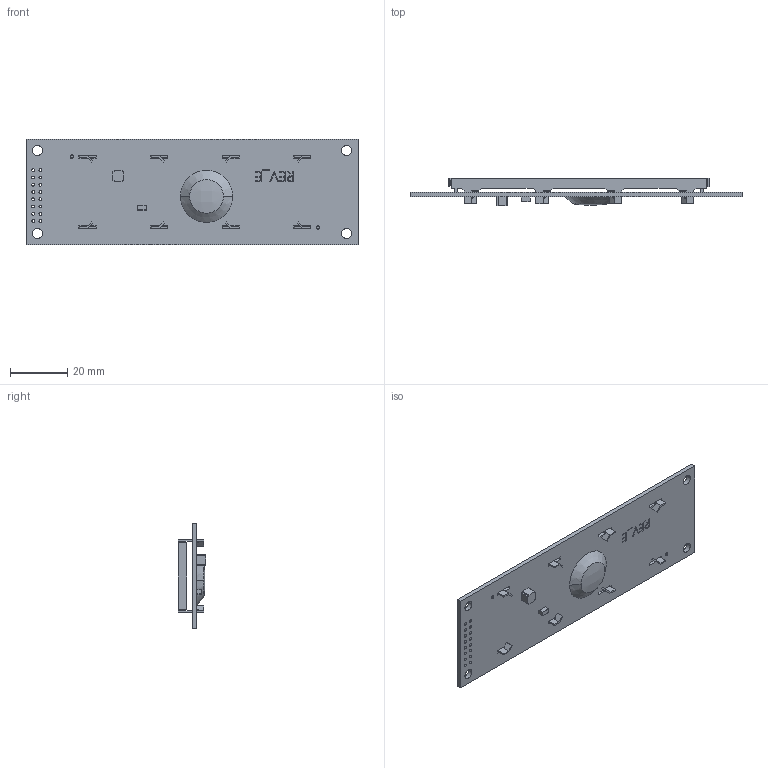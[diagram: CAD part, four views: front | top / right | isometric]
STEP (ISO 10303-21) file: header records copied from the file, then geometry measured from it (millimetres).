
FILE_DESCRIPTION (( 'STEP AP203' ), '1' );
FILE_NAME ('NHD-0220DZW.STEP', '2024-01-25T19:47:39', ( '' ), ( '' ), 'SwSTEP 2.0', 'SolidWorks 2019', '' );
FILE_SCHEMA (( 'CONFIG_CONTROL_DESIGN' ));
Length unit declared in the file: millimetre
Products named in the file (2): NHD-0220DZW
Bounding box: 116 x 9.7 x 37 mm (x, y, z)
Volume: 11777.1 mm3; surface area: 17621.6 mm2
Topology: 2 solids, 2 shells, 331 faces, 955 edges, 622 vertices
Faces by surface type: plane 255, cylinder 64, bspline 10, cone 2
Entity records: 11366 total; most frequent: CARTESIAN_POINT 2381, ORIENTED_EDGE 1902, DIRECTION 1703, EDGE_CURVE 951, LINE 793, VECTOR 793, VERTEX_POINT 622, AXIS2_PLACEMENT_3D 455
